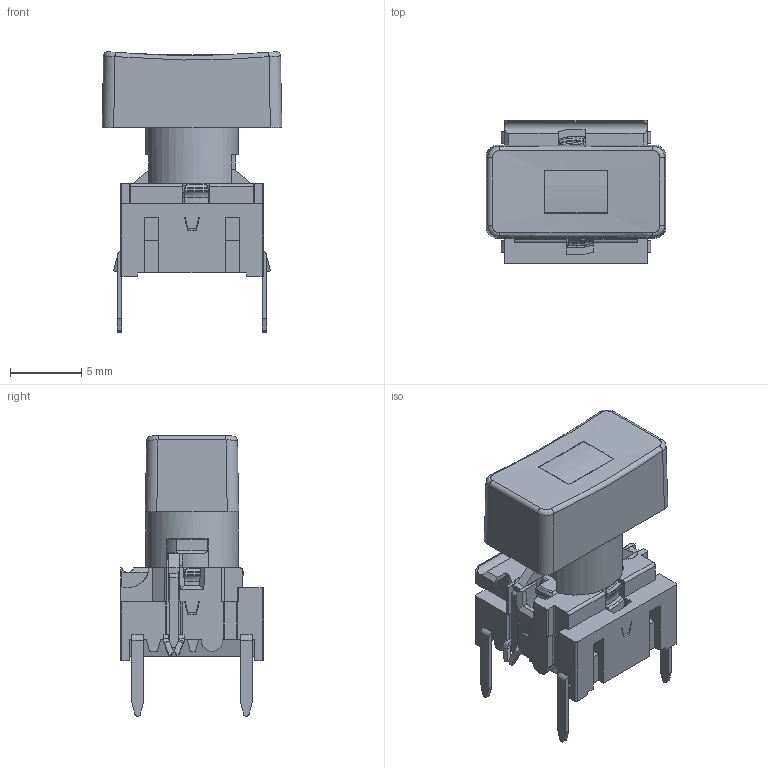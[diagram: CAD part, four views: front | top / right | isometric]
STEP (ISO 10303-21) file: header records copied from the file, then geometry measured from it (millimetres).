
FILE_DESCRIPTION(/* description */ (''),/* implementation_level */ '2;1');
FILE_NAME(/* name */ 'C:\Users\cgh.MEC\Desktop\Traceparts - 3D programserie\STEP filer\il-TH\5GTH9xxxxxxx+1QS.stp',/* time_stamp */ '2016-02-29T07:52:02+01:00',/* author */ ('cgh'),/* organization */ (''),/* preprocessor_version */ 'ST-DEVELOPER v15.2',/* originating_system */ 'Autodesk Inventor 2014',/* authorisation */ '');
FILE_SCHEMA (('AUTOMOTIVE_DESIGN { 1 0 10303 214 3 1 1 }'));
Length unit declared in the file: centimetre
Products named in the file (1): cgh
Bounding box: 12.56 x 10 x 19.62 mm (x, y, z)
Volume: 703.5 mm3; surface area: 1809.2 mm2
Topology: 1 solids, 1 shells, 1332 faces, 3799 edges, 2476 vertices
Faces by surface type: plane 872, cylinder 222, bspline 126, torus 70, cone 37, sphere 5
Full cylindrical faces by diameter (mm): 0.9 x1, 1 x3, 2.8 x1, 4.73 x1, 5.2 x1, 6.5 x2, 7.44 x1
Entity records: 46674 total; most frequent: CARTESIAN_POINT 11312, ORIENTED_EDGE 7502, DIRECTION 6494, EDGE_CURVE 3751, LINE 2516, VECTOR 2516, VERTEX_POINT 2462, AXIS2_PLACEMENT_3D 1989
